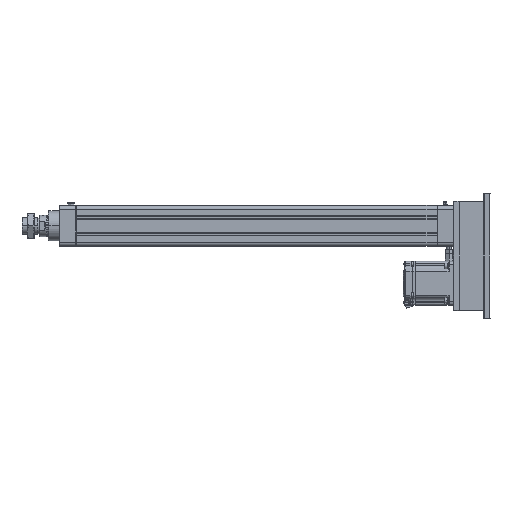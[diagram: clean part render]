
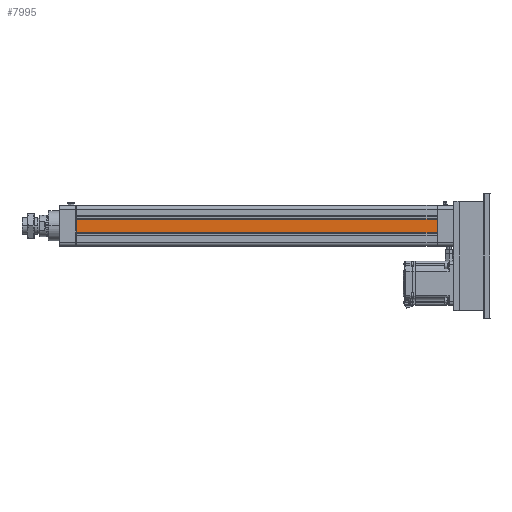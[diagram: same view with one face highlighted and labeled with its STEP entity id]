
A CAD part, left-side view. The second image highlights one B-rep face of the part: STEP entity #7995.
In plain terms, the highlighted planar face has unit normal (-1, 0, 0).
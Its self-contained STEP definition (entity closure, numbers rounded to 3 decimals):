
#3229=DIRECTION('',(0.,0.,1.));
#3230=VECTOR('',#3229,25.4);
#3231=CARTESIAN_POINT('',(-37.5,-330.5,-12.7));
#3232=LINE('',#3231,#3230);
#4232=DIRECTION('',(0.,0.,1.));
#4233=VECTOR('',#4232,25.4);
#4234=CARTESIAN_POINT('',(-37.5,330.5,-12.7));
#4235=LINE('',#4234,#4233);
#4789=DIRECTION('',(0.,-1.,0.));
#4790=VECTOR('',#4789,661.);
#4791=CARTESIAN_POINT('',(-37.5,330.5,-12.7));
#4792=LINE('',#4791,#4790);
#4793=DIRECTION('',(0.,1.,0.));
#4794=VECTOR('',#4793,661.);
#4795=CARTESIAN_POINT('',(-37.5,-330.5,12.7));
#4796=LINE('',#4795,#4794);
#6049=CARTESIAN_POINT('',(-37.5,-330.5,-12.7));
#6051=VERTEX_POINT('',#6049);
#6055=CARTESIAN_POINT('',(-37.5,330.5,-12.7));
#6056=VERTEX_POINT('',#6055);
#6201=CARTESIAN_POINT('',(-37.5,-330.5,12.7));
#6202=VERTEX_POINT('',#6201);
#6203=CARTESIAN_POINT('',(-37.5,330.5,12.7));
#6204=VERTEX_POINT('',#6203);
#7982=CARTESIAN_POINT('',(-37.5,-330.5,-37.5));
#7983=DIRECTION('',(-1.,0.,0.));
#7984=DIRECTION('',(0.,0.,1.));
#7985=AXIS2_PLACEMENT_3D('',#7982,#7983,#7984);
#7986=PLANE('',#7985);
#7988=ORIENTED_EDGE('',*,*,#7987,.F.);
#7989=ORIENTED_EDGE('',*,*,#7051,.T.);
#7991=ORIENTED_EDGE('',*,*,#7990,.F.);
#7992=ORIENTED_EDGE('',*,*,#6338,.F.);
#7993=EDGE_LOOP('',(#7988,#7989,#7991,#7992));
#7994=FACE_OUTER_BOUND('',#7993,.F.);
#7995=ADVANCED_FACE('',(#7994),#7986,.T.);
#6338=EDGE_CURVE('',#6051,#6202,#3232,.T.);
#7051=EDGE_CURVE('',#6056,#6204,#4235,.T.);
#7987=EDGE_CURVE('',#6056,#6051,#4792,.T.);
#7990=EDGE_CURVE('',#6202,#6204,#4796,.T.);
